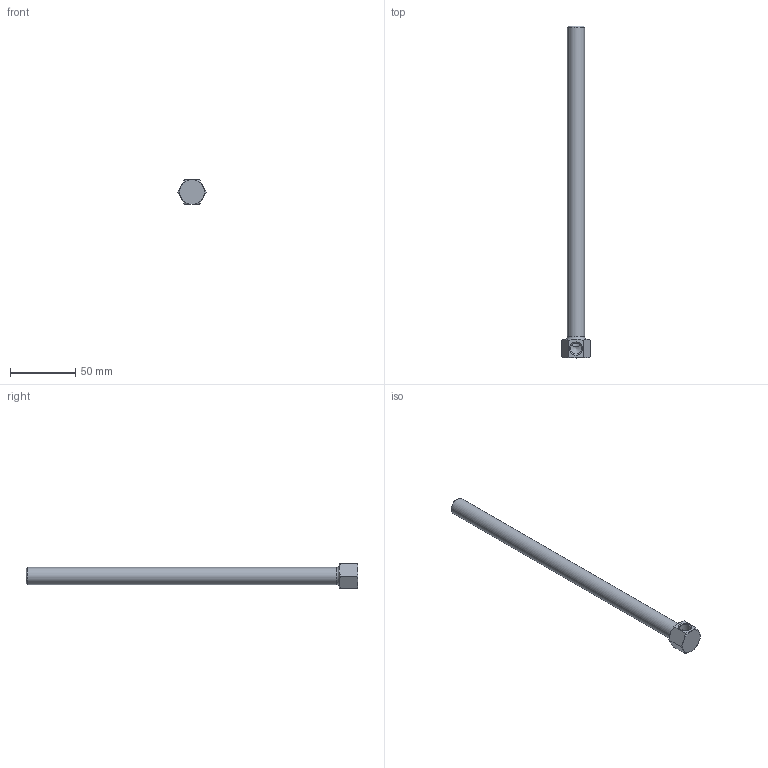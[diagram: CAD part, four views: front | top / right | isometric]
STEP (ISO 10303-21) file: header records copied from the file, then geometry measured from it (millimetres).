
FILE_DESCRIPTION(/* description */ (''),/* implementation_level */ '2;1');
FILE_NAME(/* name */ 'C:/Users/drich/Desktop/1814B-10 v1.step',/* time_stamp */ '2019-12-29T15:30:48-06:00',/* author */ (''),/* organization */ (''),/* preprocessor_version */ 'ST-DEVELOPER v18',/* originating_system */ 'Autodesk Translation Framework v8.12.0.6',/* authorisation */ '');
FILE_SCHEMA (('AUTOMOTIVE_DESIGN { 1 0 10303 214 3 1 1 }','TECHNICAL_DATA_PACKAGING'));
Length unit declared in the file: inch
Products named in the file (1): 1814B-10
Bounding box: 22 x 254 x 19.05 mm (x, y, z)
Volume: 21161.7 mm3; surface area: 18188.8 mm2
Topology: 1 solids, 1 shells, 22 faces, 57 edges, 37 vertices
Faces by surface type: plane 9, cone 8, cylinder 4, torus 1
Full cylindrical faces by diameter (mm): 8.707 x1, 8.712 x1, 13.032 x1
Entity records: 801 total; most frequent: CARTESIAN_POINT 256, ORIENTED_EDGE 112, DIRECTION 100, EDGE_CURVE 56, AXIS2_PLACEMENT_3D 42, VERTEX_POINT 37, EDGE_LOOP 25, FACE_OUTER_BOUND 22
